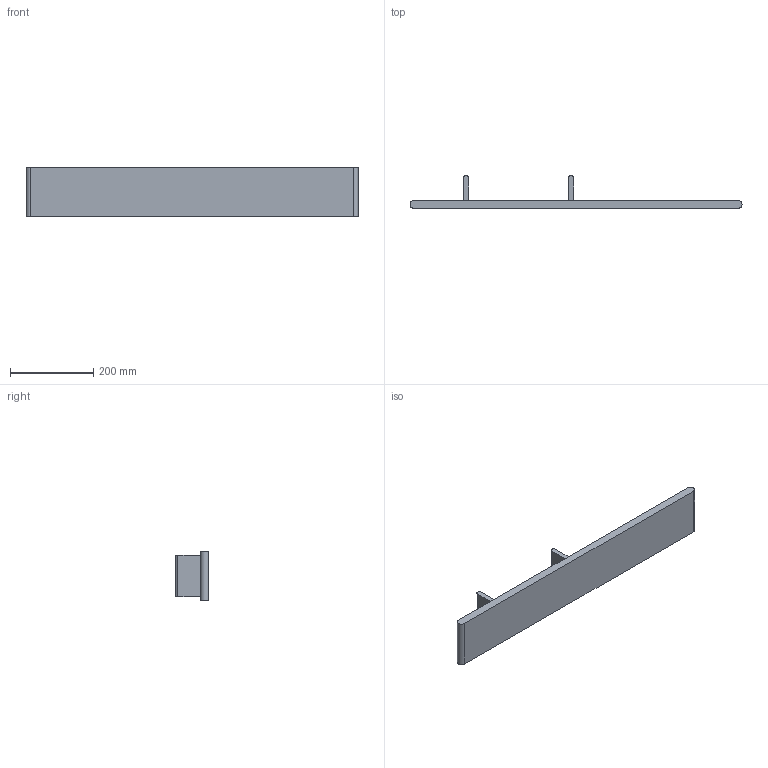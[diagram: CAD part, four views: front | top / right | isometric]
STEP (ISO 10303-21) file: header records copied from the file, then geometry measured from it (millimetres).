
FILE_DESCRIPTION (( 'STEP AP203' ), '1' );
FILE_NAME ('FRM80.STEP', '2021-06-10T09:26:27', ( '' ), ( '' ), 'SwSTEP 2.0', 'SolidWorks 2021', '' );
FILE_SCHEMA (( 'CONFIG_CONTROL_DESIGN' ));
Length unit declared in the file: millimetre
Products named in the file (1): FRM80
Bounding box: 800 x 80 x 120 mm (x, y, z)
Volume: 2050608.8 mm3; surface area: 252356.2 mm2
Topology: 1 solids, 1 shells, 19 faces, 45 edges, 30 vertices
Faces by surface type: plane 12, cylinder 7
Entity records: 630 total; most frequent: DIRECTION 99, CARTESIAN_POINT 95, ORIENTED_EDGE 90, EDGE_CURVE 45, AXIS2_PLACEMENT_3D 34, VECTOR 31, LINE 31, VERTEX_POINT 30
